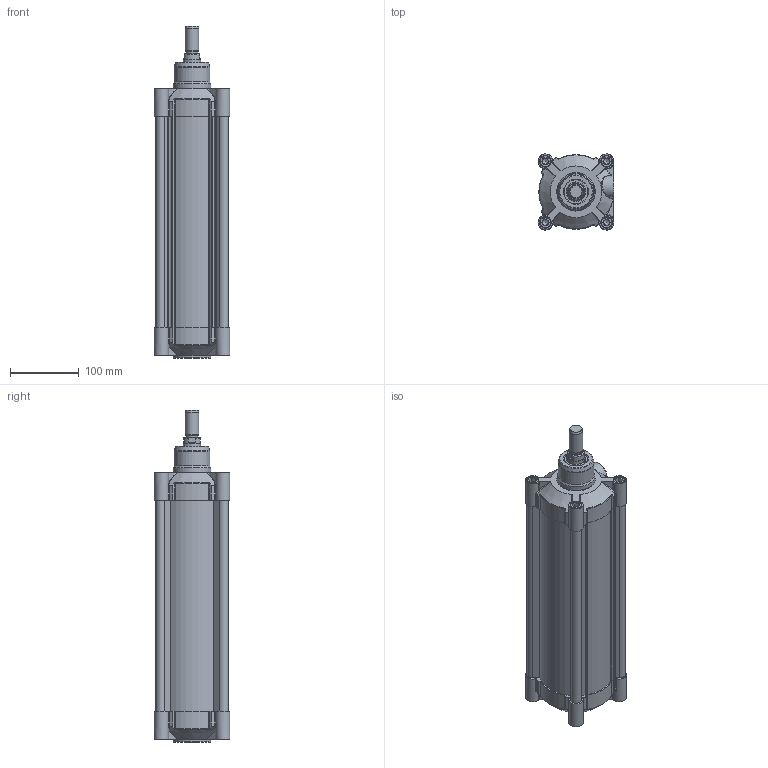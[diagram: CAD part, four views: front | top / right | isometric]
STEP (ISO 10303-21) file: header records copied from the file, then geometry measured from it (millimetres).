
FILE_DESCRIPTION(/* description */ (''),/* implementation_level */ '2;1');
FILE_NAME(/* name */ 'T:\Archivio Inventor\- 00 NUOVI STP PER SITO CON STELO CHE SI MUOVE\SERIE H - U\SERIE HDM\HDM100 - TUBO NUOVO\HDM100.250.GS.M.stp',/* time_stamp */ '2018-08-02T09:32:09+02:00',/* author */ ('carlo.corazza'),/* organization */ (''),/* preprocessor_version */ 'ST-DEVELOPER v16.5',/* originating_system */ 'Autodesk Inventor 2017',/* authorisation */ '');
FILE_SCHEMA (('AUTOMOTIVE_DESIGN { 1 0 10303 214 3 1 1 }'));
Length unit declared in the file: millimetre
Products named in the file (5): HDM100.250.GS.M; TP; TA; STELO-250; CORPO-250
Assembly tree (4 placements, depth 2):
  HDM100.250.GS.M
    TP
    TA
    STELO-250
    CORPO-250
Bounding box: 110 x 110 x 483 mm (x, y, z)
Volume: 1289965.3 mm3; surface area: 540796 mm2
Topology: 4 solids, 29 shells, 1355 faces, 3135 edges, 1912 vertices
Faces by surface type: plane 408, cylinder 313, bspline 270, torus 126, cone 122, sphere 116
Full cylindrical faces by diameter (mm): 5 x2, 5.9 x2, 6.5 x2, 7.25 x2, 8.376 x8, 9.4 x4, 10 x8, 10.3 x8, 11.8 x4, 11.9 x2, 12 x4, 16 x9, 16.3 x8, 17 x2, 17.5 x1, 18.631 x2, 20 x1, 24.5 x1, 25 x1, 25.8 x1, 25.962 x1, 30 x1, 31.5 x2, 35 x3, 52 x1, 55 x2, 100 x1
Entity records: 43668 total; most frequent: CARTESIAN_POINT 13702, ORIENTED_EDGE 5710, DIRECTION 5644, EDGE_CURVE 2855, AXIS2_PLACEMENT_3D 2293, VERTEX_POINT 1857, EDGE_LOOP 1690, STYLED_ITEM 1359
